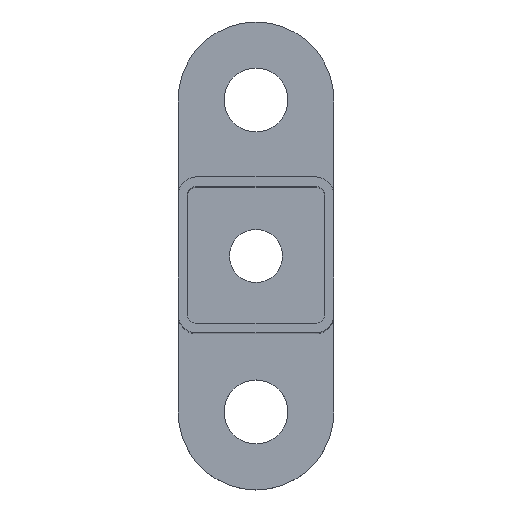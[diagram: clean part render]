
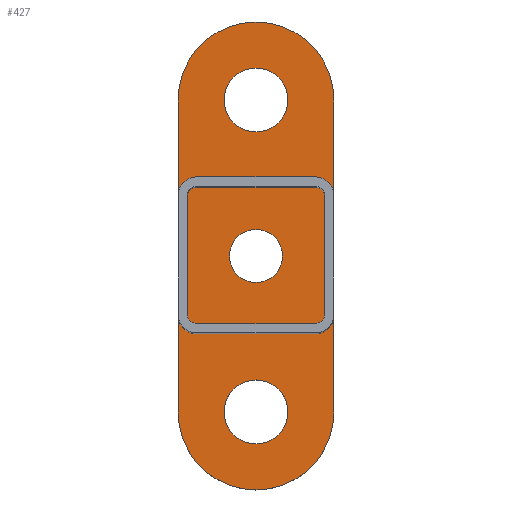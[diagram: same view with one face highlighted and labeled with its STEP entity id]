
A CAD part, top view. The second image highlights one B-rep face of the part: STEP entity #427.
In plain terms, the highlighted planar face has unit normal (0, 0, 1).
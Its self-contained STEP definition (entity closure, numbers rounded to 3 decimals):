
#6 = EDGE_CURVE ( 'NONE', #386, #701, #495, .T. ) ;
#17 = AXIS2_PLACEMENT_3D ( 'NONE', #34, #800, #735 ) ;
#23 = LINE ( 'NONE', #351, #823 ) ;
#34 = CARTESIAN_POINT ( 'NONE',  ( 0., 0., 3. ) ) ;
#48 = DIRECTION ( 'NONE',  ( 0., 0., 1. ) ) ;
#79 = EDGE_CURVE ( 'NONE', #122, #261, #330, .T. ) ;
#82 = ORIENTED_EDGE ( 'NONE', *, *, #148, .F. ) ;
#87 = ORIENTED_EDGE ( 'NONE', *, *, #79, .T. ) ;
#91 = DIRECTION ( 'NONE',  ( 1., 0., 0. ) ) ;
#92 = VERTEX_POINT ( 'NONE', #646 ) ;
#94 = FACE_BOUND ( 'NONE', #749, .T. ) ;
#97 = CARTESIAN_POINT ( 'NONE',  ( 0., 25., 3. ) ) ;
#98 = CIRCLE ( 'NONE', #210, 5.125 ) ;
#104 = CARTESIAN_POINT ( 'NONE',  ( -5.125, 25., 3. ) ) ;
#122 = VERTEX_POINT ( 'NONE', #176 ) ;
#128 = AXIS2_PLACEMENT_3D ( 'NONE', #450, #505, #429 ) ;
#135 = EDGE_CURVE ( 'NONE', #575, #136, #178, .T. ) ;
#136 = VERTEX_POINT ( 'NONE', #349 ) ;
#138 = CARTESIAN_POINT ( 'NONE',  ( 0., -25., 3. ) ) ;
#148 = EDGE_CURVE ( 'NONE', #136, #575, #231, .T. ) ;
#149 = DIRECTION ( 'NONE',  ( 0., 0., 1. ) ) ;
#153 = ORIENTED_EDGE ( 'NONE', *, *, #586, .F. ) ;
#158 = EDGE_LOOP ( 'NONE', ( #831, #82 ) ) ;
#165 = FACE_OUTER_BOUND ( 'NONE', #179, .T. ) ;
#176 = CARTESIAN_POINT ( 'NONE',  ( 12.5, 25., 3. ) ) ;
#178 = CIRCLE ( 'NONE', #17, 4.25 ) ;
#179 = EDGE_LOOP ( 'NONE', ( #550, #804, #87, #849 ) ) ;
#190 = CARTESIAN_POINT ( 'NONE',  ( 0., 0., 3. ) ) ;
#195 = CARTESIAN_POINT ( 'NONE',  ( -4.25, 0., 3. ) ) ;
#196 = CARTESIAN_POINT ( 'NONE',  ( 12.5, -25., 3. ) ) ;
#210 = AXIS2_PLACEMENT_3D ( 'NONE', #286, #382, #523 ) ;
#231 = CIRCLE ( 'NONE', #942, 4.25 ) ;
#234 = EDGE_CURVE ( 'NONE', #92, #122, #893, .T. ) ;
#258 = EDGE_LOOP ( 'NONE', ( #153, #521 ) ) ;
#261 = VERTEX_POINT ( 'NONE', #995 ) ;
#286 = CARTESIAN_POINT ( 'NONE',  ( 0., 25., 3. ) ) ;
#330 = CIRCLE ( 'NONE', #748, 12.5 ) ;
#343 = AXIS2_PLACEMENT_3D ( 'NONE', #138, #149, #783 ) ;
#349 = CARTESIAN_POINT ( 'NONE',  ( 4.25, 0., 3. ) ) ;
#351 = CARTESIAN_POINT ( 'NONE',  ( -12.5, -25., 3. ) ) ;
#357 = CARTESIAN_POINT ( 'NONE',  ( -5.125, -25., 3. ) ) ;
#382 = DIRECTION ( 'NONE',  ( 0., 0., 1. ) ) ;
#386 = VERTEX_POINT ( 'NONE', #104 ) ;
#389 = ORIENTED_EDGE ( 'NONE', *, *, #905, .F. ) ;
#391 = AXIS2_PLACEMENT_3D ( 'NONE', #721, #489, #793 ) ;
#427 = ADVANCED_FACE ( 'NONE', ( #94, #165, #802, #867 ), #734, .T. ) ;
#429 = DIRECTION ( 'NONE',  ( 1., 0., 0. ) ) ;
#438 = CARTESIAN_POINT ( 'NONE',  ( 0., -25., 3. ) ) ;
#450 = CARTESIAN_POINT ( 'NONE',  ( 0., -25., 3. ) ) ;
#489 = DIRECTION ( 'NONE',  ( 0., 0., 1. ) ) ;
#491 = VECTOR ( 'NONE', #510, 1000. ) ;
#495 = CIRCLE ( 'NONE', #681, 5.125 ) ;
#501 = EDGE_CURVE ( 'NONE', #683, #524, #891, .T. ) ;
#505 = DIRECTION ( 'NONE',  ( 0., 0., 1. ) ) ;
#510 = DIRECTION ( 'NONE',  ( 0., 1., 0. ) ) ;
#521 = ORIENTED_EDGE ( 'NONE', *, *, #501, .F. ) ;
#523 = DIRECTION ( 'NONE',  ( 1., 0., 0. ) ) ;
#524 = VERTEX_POINT ( 'NONE', #357 ) ;
#534 = CIRCLE ( 'NONE', #343, 12.5 ) ;
#548 = DIRECTION ( 'NONE',  ( 0., 0., 1. ) ) ;
#550 = ORIENTED_EDGE ( 'NONE', *, *, #677, .T. ) ;
#575 = VERTEX_POINT ( 'NONE', #195 ) ;
#586 = EDGE_CURVE ( 'NONE', #524, #683, #908, .T. ) ;
#646 = CARTESIAN_POINT ( 'NONE',  ( 12.5, -25., 3. ) ) ;
#657 = DIRECTION ( 'NONE',  ( 0., -1., 0. ) ) ;
#677 = EDGE_CURVE ( 'NONE', #787, #92, #534, .T. ) ;
#681 = AXIS2_PLACEMENT_3D ( 'NONE', #709, #548, #927 ) ;
#683 = VERTEX_POINT ( 'NONE', #776 ) ;
#701 = VERTEX_POINT ( 'NONE', #772 ) ;
#709 = CARTESIAN_POINT ( 'NONE',  ( 0., 25., 3. ) ) ;
#718 = AXIS2_PLACEMENT_3D ( 'NONE', #438, #48, #896 ) ;
#721 = CARTESIAN_POINT ( 'NONE',  ( 0., -25., 3. ) ) ;
#734 = PLANE ( 'NONE',  #391 ) ;
#735 = DIRECTION ( 'NONE',  ( 1., 0., 0. ) ) ;
#748 = AXIS2_PLACEMENT_3D ( 'NONE', #97, #961, #883 ) ;
#749 = EDGE_LOOP ( 'NONE', ( #809, #389 ) ) ;
#772 = CARTESIAN_POINT ( 'NONE',  ( 5.125, 25., 3. ) ) ;
#776 = CARTESIAN_POINT ( 'NONE',  ( 5.125, -25., 3. ) ) ;
#783 = DIRECTION ( 'NONE',  ( 1., 0., 0. ) ) ;
#787 = VERTEX_POINT ( 'NONE', #798 ) ;
#789 = DIRECTION ( 'NONE',  ( 0., 0., 1. ) ) ;
#793 = DIRECTION ( 'NONE',  ( 1., 0., 0. ) ) ;
#798 = CARTESIAN_POINT ( 'NONE',  ( -12.5, -25., 3. ) ) ;
#799 = EDGE_CURVE ( 'NONE', #261, #787, #23, .T. ) ;
#800 = DIRECTION ( 'NONE',  ( 0., 0., 1. ) ) ;
#802 = FACE_BOUND ( 'NONE', #158, .T. ) ;
#804 = ORIENTED_EDGE ( 'NONE', *, *, #234, .T. ) ;
#809 = ORIENTED_EDGE ( 'NONE', *, *, #6, .F. ) ;
#823 = VECTOR ( 'NONE', #657, 1000. ) ;
#831 = ORIENTED_EDGE ( 'NONE', *, *, #135, .F. ) ;
#849 = ORIENTED_EDGE ( 'NONE', *, *, #799, .T. ) ;
#867 = FACE_BOUND ( 'NONE', #258, .T. ) ;
#883 = DIRECTION ( 'NONE',  ( 1., 0., 0. ) ) ;
#891 = CIRCLE ( 'NONE', #718, 5.125 ) ;
#893 = LINE ( 'NONE', #196, #491 ) ;
#896 = DIRECTION ( 'NONE',  ( 1., 0., 0. ) ) ;
#905 = EDGE_CURVE ( 'NONE', #701, #386, #98, .T. ) ;
#908 = CIRCLE ( 'NONE', #128, 5.125 ) ;
#927 = DIRECTION ( 'NONE',  ( 1., 0., 0. ) ) ;
#942 = AXIS2_PLACEMENT_3D ( 'NONE', #190, #789, #91 ) ;
#961 = DIRECTION ( 'NONE',  ( 0., 0., 1. ) ) ;
#995 = CARTESIAN_POINT ( 'NONE',  ( -12.5, 25., 3. ) ) ;
